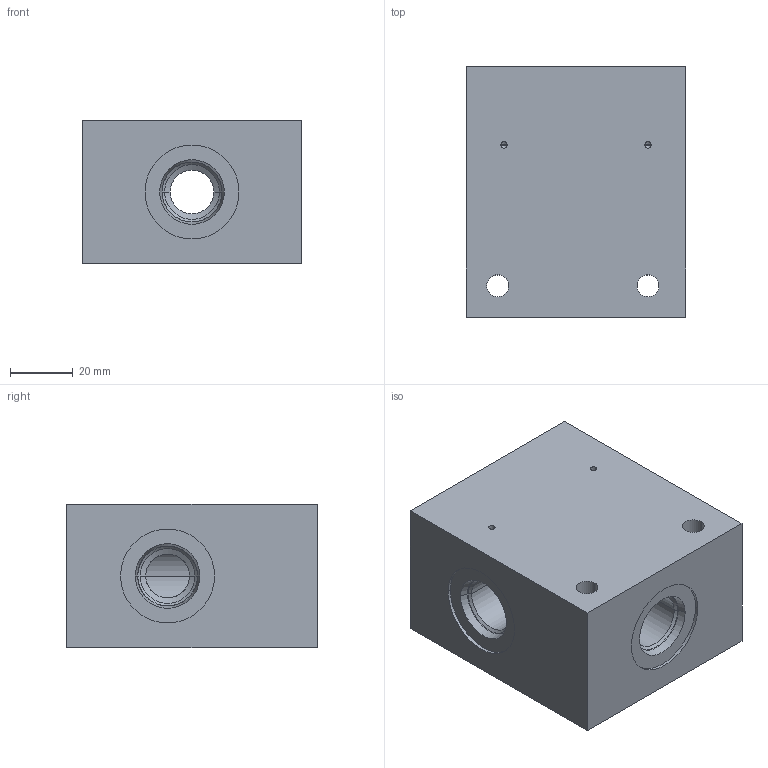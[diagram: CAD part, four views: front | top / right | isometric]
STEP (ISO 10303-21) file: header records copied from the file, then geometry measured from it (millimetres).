
FILE_DESCRIPTION((''),'2;1');
FILE_NAME('1000058694','2023-10-11T',('l.soukupova'),(''),'PRO/ENGINEER BY PARAMETRIC TECHNOLOGY CORPORATION, 2015440','PRO/ENGINEER BY PARAMETRIC TECHNOLOGY CORPORATION, 2015440','');
FILE_SCHEMA(('AUTOMOTIVE_DESIGN { 1 0 10303 214 1 1 1 1 }'));
Length unit declared in the file: millimetre
Products named in the file (1): 1000058694
Bounding box: 70 x 80 x 46 mm (x, y, z)
Volume: 222230.6 mm3; surface area: 35695.5 mm2
Topology: 1 solids, 5 shells, 88 faces, 320 edges, 274 vertices
Faces by surface type: cylinder 42, cone 32, plane 14
Entity records: 4553 total; most frequent: CARTESIAN_POINT 725, DIRECTION 614, ORIENTED_EDGE 376, PRESENTATION_STYLE_ASSIGNMENT 347, STYLED_ITEM 347, CURVE_STYLE 342, AXIS2_PLACEMENT_3D 205, VECTOR 204
